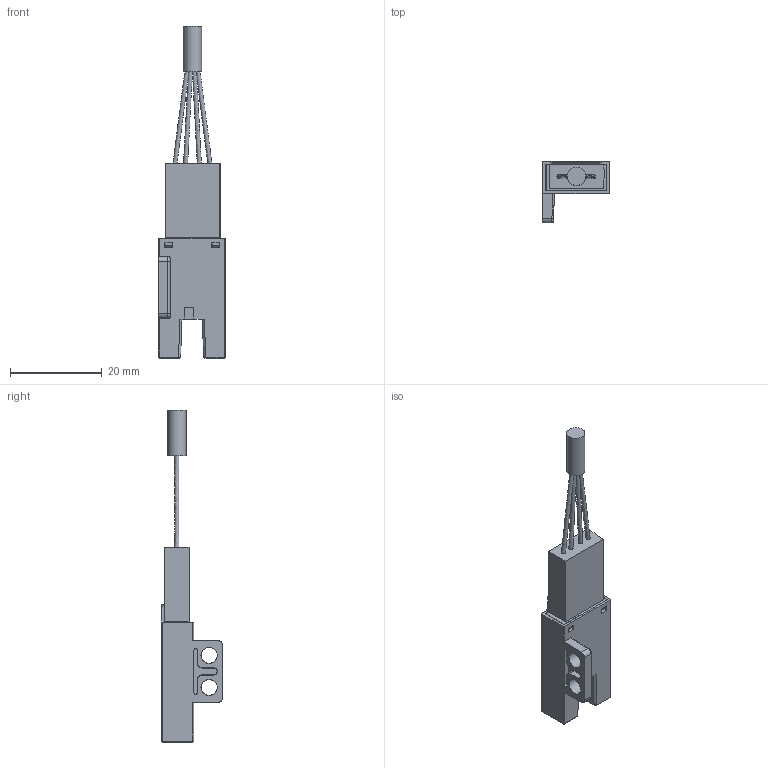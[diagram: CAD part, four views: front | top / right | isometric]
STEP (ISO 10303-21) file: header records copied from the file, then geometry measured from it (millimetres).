
FILE_DESCRIPTION(/* description */ (''),/* implementation_level */ '2;1');
FILE_NAME(/* name */ '304-接插件.stp',/* time_stamp */ '2016-12-22T15:36:57+08:00',/* author */ (''),/* organization */ (''),/* preprocessor_version */ 'ST-DEVELOPER v16',/* originating_system */ 'SIEMENS PLM Software NX 10.0',/* authorisation */ '');
FILE_SCHEMA (('AP203_CONFIGURATION_CONTROLLED_3D_DESIGN_OF_MECHANICAL_PARTS_AND_ASSEMBLIES_MIM_LF { 1 0 10303 403 2 1 2}'));
Length unit declared in the file: millimetre
Products named in the file (1): Gavi0C983A09kat8
Bounding box: 14.5 x 13.5 x 72.5 mm (x, y, z)
Volume: 2464.8 mm3; surface area: 5156.6 mm2
Topology: 13 solids, 13 shells, 551 faces, 1492 edges, 984 vertices
Faces by surface type: plane 465, cylinder 71, sphere 6, extrusion 4, cone 3, bspline 2
Full cylindrical faces by diameter (mm): 0.7 x2, 1.5 x2, 4 x1
Entity records: 17351 total; most frequent: CARTESIAN_POINT 3383, ORIENTED_EDGE 2942, DIRECTION 2665, EDGE_CURVE 1471, VECTOR 1211, LINE 1207, VERTEX_POINT 978, AXIS2_PLACEMENT_3D 727
